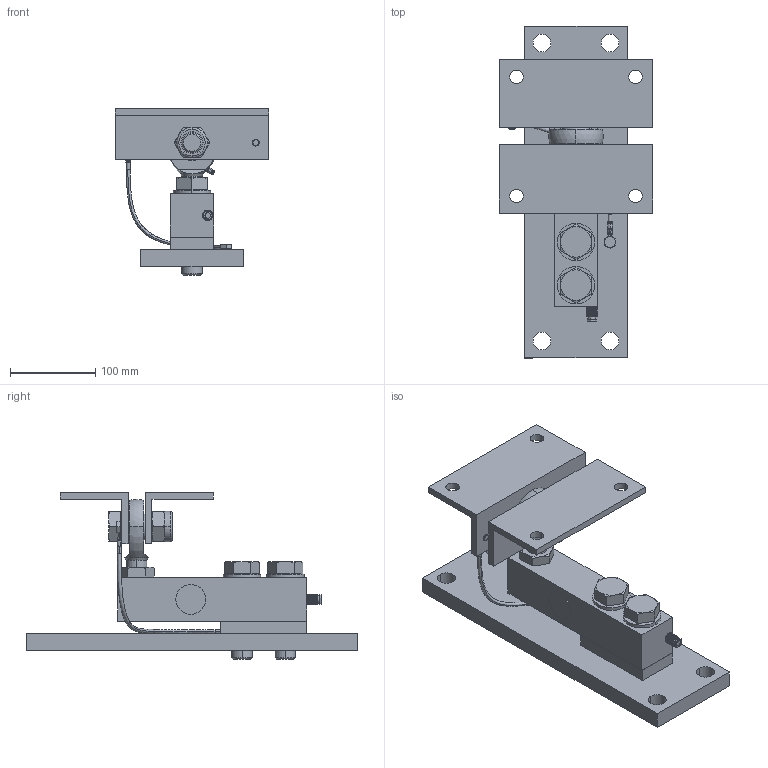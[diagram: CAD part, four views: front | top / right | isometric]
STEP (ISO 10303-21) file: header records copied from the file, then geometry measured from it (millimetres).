
FILE_DESCRIPTION((''),'1');
FILE_NAME('LMLAB_10t.step','2020-06-03T08:19:00',(''),(''),'','','');
FILE_SCHEMA(('AUTOMOTIVE_DESIGN { 1 0 10303 214 1 1 1 1 }'));
Products named in the file (25): LMLAB 10t; LMLAB part 03; LMLAB part 04; LMLAB part 06; LMLAB cable 01; LMLAB part 07; LMLAB cable 02; LMLAB screw 01; LMLAB nut 01; LMLAB screw 02; LMLAB part 08; LMLAB part 09; LMLAB body 01; LMLAB part 10; LMLAB part 11; LMLAB nut 02; LMLAB screw 03; LMLAB screw 04; LMLAB load cell 01; LMLAB body 03; LMLAB cable gland 01; LMLAB part 12; LMLAB plate 01
Assembly tree (31 placements, depth 4):
  LMLAB 10t
    LMLAB 10t
    LMLAB part 07
      LMLAB part 03
        LMLAB part 04
        LMLAB part 06
        LMLAB cable 01
      LMLAB cable 02
      LMLAB part 03
        LMLAB part 04
        LMLAB part 06
        LMLAB cable 01
    LMLAB screw 01  x2
    LMLAB nut 01
    LMLAB screw 02
    LMLAB part 08  x2
    LMLAB part 09
      LMLAB body 01
      LMLAB part 10
      LMLAB part 11
    LMLAB nut 02
    LMLAB screw 03  x2
    LMLAB screw 04  x2
    LMLAB load cell 01
      LMLAB body 03
      LMLAB cable gland 01
    LMLAB part 12
    LMLAB plate 01
Bounding box: 180 x 390 x 196 mm (x, y, z)
Volume: 2102761.3 mm3; surface area: 380803.4 mm2
Topology: 25 solids, 30 shells, 758 faces, 1800 edges, 1104 vertices
Faces by surface type: plane 224, cylinder 222, cone 160, bspline 76, torus 70, extrusion 4, sphere 2
Entity records: 24617 total; most frequent: CARTESIAN_POINT 11171, DIRECTION 2749, ORIENTED_EDGE 2544, EDGE_CURVE 1280, AXIS2_PLACEMENT_3D 1149, VERTEX_POINT 778, EDGE_LOOP 622, CIRCLE 600
